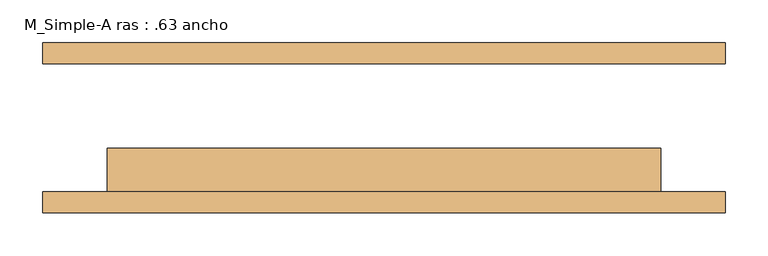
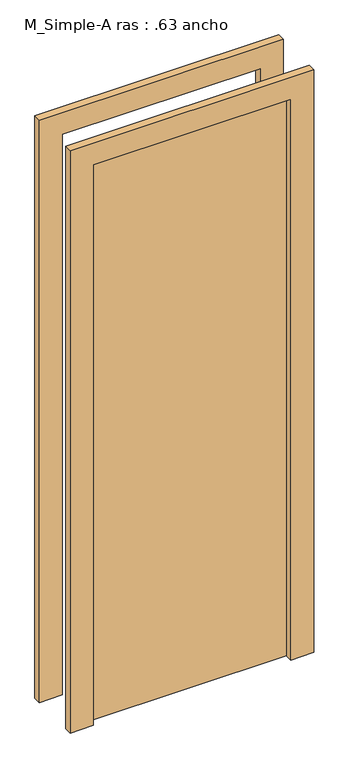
"""IFC4 building model written with IfcOpenShell, lengths in millimetres: door geometry, M_Simple-A ras : .63 ancho."""

from ifc_helpers import new_model, si_unit, frame, origin, origin_with_axes, place, context, project, spatial, polyline, outline, extrude, source, transform, mapped, element, save


def m_simple_a_ras_63_ancho_e79645bf(model_context):
    return source(origin(), model_context, "Body", "SweptSolid", [
        extrude(outline(polyline([(2026.0, -401.0), (0.0, -401.0), (0.0, -325.0), (1950.0, -325.0), (1950.0, 325.0), (0.0, 325.0), (0.0, 401.0), (2026.0, 401.0), (2026.0, -401.0)])), frame((0.0, -100.0, 0.0), z_axis=(0.0, 1.0, 0.0), x_axis=(0.0, 0.0, 1.0)), (0.0, 0.0, 1.0), 25.0),
        extrude(outline(polyline([(2026.0, 401.0), (2026.0, -401.0), (0.0, -401.0), (0.0, -325.0), (1950.0, -325.0), (1950.0, 325.0), (0.0, 325.0), (0.0, 401.0), (2026.0, 401.0)])), frame((0.0, 75.0, 0.0), z_axis=(0.0, 1.0, 0.0), x_axis=(0.0, 0.0, 1.0)), (0.0, 0.0, 1.0), 25.0),
        extrude(outline(polyline([(325.0, -24.0), (325.0, -75.0), (-325.0, -75.0), (-325.0, -24.0), (325.0, -24.0)])), origin_with_axes(), (0.0, 0.0, 1.0), 1950.0),
    ])


if __name__ == "__main__":
    model = new_model("IFC4")
    model_context = context("Model", 3, world=origin())
    ifc_project = project(units=[si_unit("LENGTHUNIT", "METRE", prefix="MILLI")], contexts=[model_context])
    site = spatial("IfcSite", under=ifc_project)
    building = spatial("IfcBuilding", under=site)
    placement = place(None, origin())
    m_simple_a_ras_63_ancho_shape = m_simple_a_ras_63_ancho_e79645bf(model_context)
    element("IfcDoor", 1, ObjectType="M_Simple-A ras : .63 ancho", at=placement, inside=building, context=model_context, shape_type="MappedRepresentation", body=[
        mapped(m_simple_a_ras_63_ancho_shape, transform((0.0, 0.0, 0.0), x_axis=(1.0, 0.0, 0.0), y_axis=(0.0, 1.0, 0.0), z_axis=(0.0, 0.0, 1.0))),
    ])
    save(model, "model.ifc")
